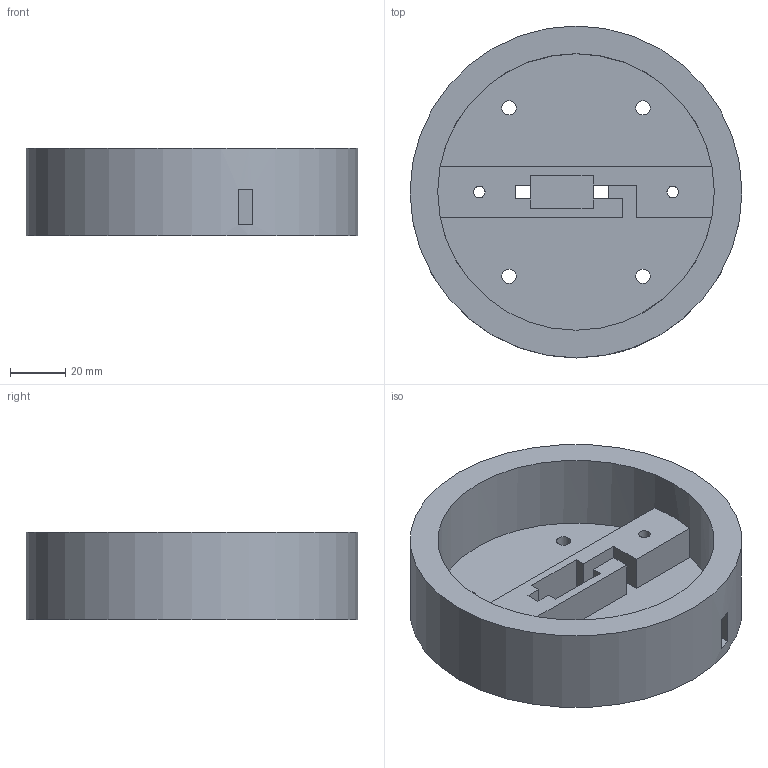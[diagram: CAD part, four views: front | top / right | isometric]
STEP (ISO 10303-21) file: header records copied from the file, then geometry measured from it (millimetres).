
FILE_DESCRIPTION(/* description */ (''),/* implementation_level */ '2;1');
FILE_NAME(/* name */ 'BaseV2_v6.tmp.step',/* time_stamp */ '2026-11-01T13:09:17+02:00',/* author */ (''),/* organization */ (''),/* preprocessor_version */ 'ST-DEVELOPER v20.2',/* originating_system */ 'Autodesk Translation Framework v15.15.0.0',/* authorisation */ '');
FILE_SCHEMA (('AUTOMOTIVE_DESIGN { 1 0 10303 214 3 1 1 }'));
Length unit declared in the file: millimetre
Products named in the file (1): BaseV2
Bounding box: 120 x 120 x 31.7 mm (x, y, z)
Volume: 157162.8 mm3; surface area: 47587.3 mm2
Topology: 1 solids, 1 shells, 38 faces, 108 edges, 70 vertices
Faces by surface type: plane 28, cylinder 8, cone 2
Full cylindrical faces by diameter (mm): 4.2 x2, 5.2 x4, 100 x1, 120 x1
Entity records: 1299 total; most frequent: CARTESIAN_POINT 217, ORIENTED_EDGE 216, DIRECTION 212, EDGE_CURVE 108, LINE 82, VECTOR 82, VERTEX_POINT 70, AXIS2_PLACEMENT_3D 65
